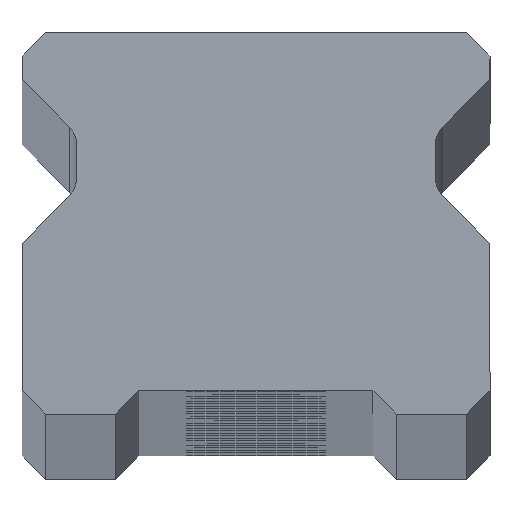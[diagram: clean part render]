
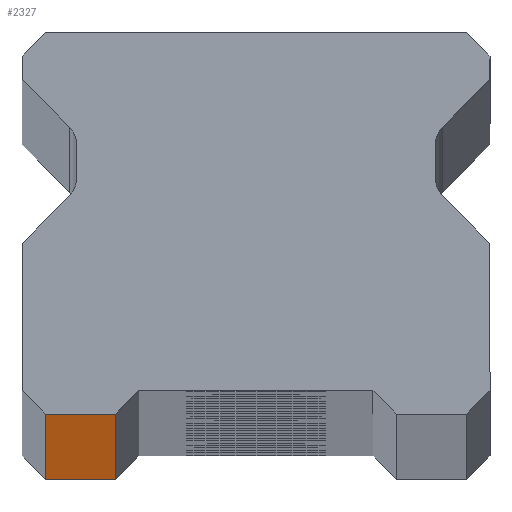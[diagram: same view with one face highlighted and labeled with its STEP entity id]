
A CAD part, top view. The second image highlights one B-rep face of the part: STEP entity #2327.
In plain terms, the highlighted planar face has unit normal (0, -1, 0).
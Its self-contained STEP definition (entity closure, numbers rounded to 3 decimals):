
#212 = VERTEX_POINT ( 'NONE', #3342 ) ;
#261 = PLANE ( 'NONE',  #4666 ) ;
#277 = DIRECTION ( 'NONE',  ( 0., 1., 0. ) ) ;
#854 = ORIENTED_EDGE ( 'NONE', *, *, #3837, .F. ) ;
#911 = FACE_OUTER_BOUND ( 'NONE', #2686, .T. ) ;
#1179 = VECTOR ( 'NONE', #1277, 1000. ) ;
#1192 = EDGE_CURVE ( 'NONE', #212, #1339, #2033, .T. ) ;
#1265 = CARTESIAN_POINT ( 'NONE',  ( -6., 0., -800. ) ) ;
#1277 = DIRECTION ( 'NONE',  ( 0., 0., -1. ) ) ;
#1339 = VERTEX_POINT ( 'NONE', #4921 ) ;
#1715 = DIRECTION ( 'NONE',  ( 0., 0., 1. ) ) ;
#2033 = LINE ( 'NONE', #2439, #1179 ) ;
#2133 = EDGE_CURVE ( 'NONE', #1339, #2299, #2330, .T. ) ;
#2299 = VERTEX_POINT ( 'NONE', #4149 ) ;
#2327 = ADVANCED_FACE ( 'NONE', ( #911 ), #261, .F. ) ;
#2330 = LINE ( 'NONE', #3656, #4067 ) ;
#2439 = CARTESIAN_POINT ( 'NONE',  ( -9., 0., 800. ) ) ;
#2449 = VERTEX_POINT ( 'NONE', #4701 ) ;
#2568 = ORIENTED_EDGE ( 'NONE', *, *, #2133, .T. ) ;
#2675 = DIRECTION ( 'NONE',  ( 1., 0., 0. ) ) ;
#2686 = EDGE_LOOP ( 'NONE', ( #2568, #4254, #854, #3806 ) ) ;
#2745 = LINE ( 'NONE', #5016, #3863 ) ;
#2863 = DIRECTION ( 'NONE',  ( 1., 0., 0. ) ) ;
#3015 = DIRECTION ( 'NONE',  ( -1., 0., 0. ) ) ;
#3342 = CARTESIAN_POINT ( 'NONE',  ( -9., 0., 800. ) ) ;
#3396 = CARTESIAN_POINT ( 'NONE',  ( 10., 0., 800. ) ) ;
#3481 = VECTOR ( 'NONE', #1715, 1000. ) ;
#3656 = CARTESIAN_POINT ( 'NONE',  ( 10., 0., -800. ) ) ;
#3806 = ORIENTED_EDGE ( 'NONE', *, *, #1192, .T. ) ;
#3837 = EDGE_CURVE ( 'NONE', #212, #2449, #2745, .T. ) ;
#3863 = VECTOR ( 'NONE', #2675, 1000. ) ;
#4067 = VECTOR ( 'NONE', #2863, 1000. ) ;
#4127 = EDGE_CURVE ( 'NONE', #2299, #2449, #4280, .T. ) ;
#4149 = CARTESIAN_POINT ( 'NONE',  ( -6., 0., -800. ) ) ;
#4254 = ORIENTED_EDGE ( 'NONE', *, *, #4127, .T. ) ;
#4280 = LINE ( 'NONE', #1265, #3481 ) ;
#4666 = AXIS2_PLACEMENT_3D ( 'NONE', #3396, #277, #3015 ) ;
#4701 = CARTESIAN_POINT ( 'NONE',  ( -6., 0., 800. ) ) ;
#4921 = CARTESIAN_POINT ( 'NONE',  ( -9., 0., -800. ) ) ;
#5016 = CARTESIAN_POINT ( 'NONE',  ( 10., 0., 800. ) ) ;
